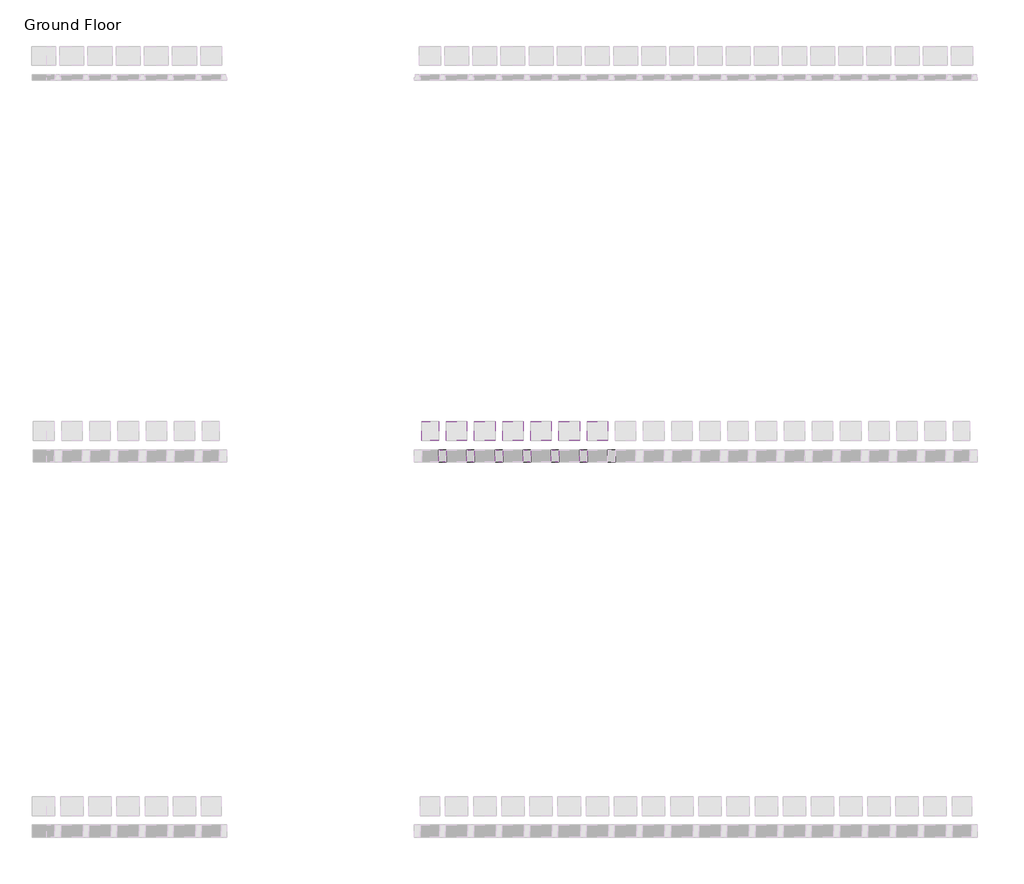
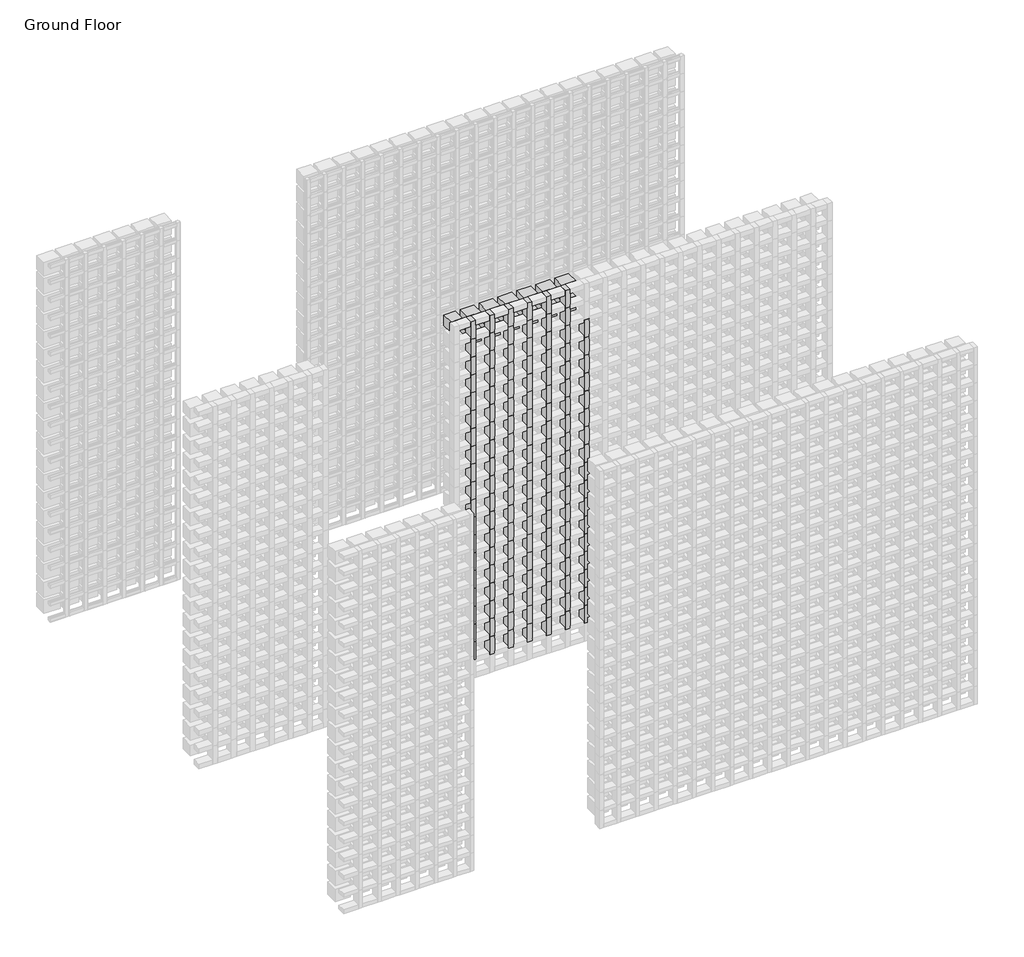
# One storey, part 145 of 350: 131 members, 13 plates.
"""IFC4 building model written with IfcOpenShell, lengths in millimetres."""

from ifc_helpers import new_model, si_unit, origin, place, context, project, spatial, transform, mapped, element, save
from components import rectangular_mullion_655930e9, empty_system_panel_empty_3b500fad, empty_system_panel_empty_e4510abc, empty_system_panel_empty_1faefc6a

model = new_model("IFC4")

# Units and contexts
model_context = context("Model", 3, world=origin())
ifc_project = project(units=[si_unit("LENGTHUNIT", "METRE", prefix="MILLI")], contexts=[model_context])

# Site, building, storey
site = spatial("IfcSite", under=ifc_project)
building = spatial("IfcBuilding", under=site)
storey = spatial("IfcBuildingStorey", under=building, Name="Ground Floor", Elevation=0.0)

# Members
placement = place(None, origin())
rectangular_mullion_shape = rectangular_mullion_655930e9(model_context)
element("IfcMember", 1, ObjectType="Rectangular Mullion : Batten_Timber_Modinex_Austratus_Grid_Fascia_40x65_Ironbark", at=placement, inside=storey, context=model_context, shape_type="MappedRepresentation", body=[
    mapped(rectangular_mullion_shape, transform((14066.4361642, 40968.2978302, 150.0), x_axis=(1.0, 0.0, 0.0), y_axis=(0.0, -1.0, 0.0), z_axis=(0.0, 0.0, -1.0))),
])
element("IfcMember", 2, ObjectType="Rectangular Mullion : Batten_Timber_Modinex_Austratus_Grid_Fascia_40x65_Ironbark", at=placement, inside=storey, context=model_context, shape_type="MappedRepresentation", body=[
    mapped(rectangular_mullion_shape, transform((14066.4361642, 40968.2978302, 300.0), x_axis=(1.0, 0.0, 0.0), y_axis=(0.0, -1.0, 0.0), z_axis=(0.0, 0.0, -1.0))),
])
element("IfcMember", 3, ObjectType="Rectangular Mullion : Batten_Timber_Modinex_Austratus_Grid_Fascia_40x65_Ironbark", at=placement, inside=storey, context=model_context, shape_type="MappedRepresentation", body=[
    mapped(rectangular_mullion_shape, transform((14066.4361642, 40968.2978302, 450.0), x_axis=(1.0, 0.0, 0.0), y_axis=(0.0, -1.0, 0.0), z_axis=(0.0, 0.0, -1.0))),
])
element("IfcMember", 4, ObjectType="Rectangular Mullion : Batten_Timber_Modinex_Austratus_Grid_Fascia_40x65_Ironbark", at=placement, inside=storey, context=model_context, shape_type="MappedRepresentation", body=[
    mapped(rectangular_mullion_shape, transform((14066.4361642, 40968.2978302, 600.0), x_axis=(1.0, 0.0, 0.0), y_axis=(0.0, -1.0, 0.0), z_axis=(0.0, 0.0, -1.0))),
])
element("IfcMember", 5, ObjectType="Rectangular Mullion : Batten_Timber_Modinex_Austratus_Grid_Fascia_40x65_Ironbark", at=placement, inside=storey, context=model_context, shape_type="MappedRepresentation", body=[
    mapped(rectangular_mullion_shape, transform((14066.4361642, 40968.2978302, 750.0), x_axis=(1.0, 0.0, 0.0), y_axis=(0.0, -1.0, 0.0), z_axis=(0.0, 0.0, -1.0))),
])
element("IfcMember", 6, ObjectType="Rectangular Mullion : Batten_Timber_Modinex_Austratus_Grid_Fascia_40x65_Ironbark", at=placement, inside=storey, context=model_context, shape_type="MappedRepresentation", body=[
    mapped(rectangular_mullion_shape, transform((14066.4361642, 40968.2978302, 900.0), x_axis=(1.0, 0.0, 0.0), y_axis=(0.0, -1.0, 0.0), z_axis=(0.0, 0.0, -1.0))),
])
element("IfcMember", 7, ObjectType="Rectangular Mullion : Batten_Timber_Modinex_Austratus_Grid_Fascia_40x65_Ironbark", at=placement, inside=storey, context=model_context, shape_type="MappedRepresentation", body=[
    mapped(rectangular_mullion_shape, transform((14066.4361642, 40968.2978302, 1050.0), x_axis=(1.0, 0.0, 0.0), y_axis=(0.0, -1.0, 0.0), z_axis=(0.0, 0.0, -1.0))),
])
element("IfcMember", 8, ObjectType="Rectangular Mullion : Batten_Timber_Modinex_Austratus_Grid_Fascia_40x65_Ironbark", at=placement, inside=storey, context=model_context, shape_type="MappedRepresentation", body=[
    mapped(rectangular_mullion_shape, transform((14066.4361642, 40968.2978302, 1200.0), x_axis=(1.0, 0.0, 0.0), y_axis=(0.0, -1.0, 0.0), z_axis=(0.0, 0.0, -1.0))),
])
element("IfcMember", 9, ObjectType="Rectangular Mullion : Batten_Timber_Modinex_Austratus_Grid_Fascia_40x65_Ironbark", at=placement, inside=storey, context=model_context, shape_type="MappedRepresentation", body=[
    mapped(rectangular_mullion_shape, transform((14066.4361642, 40968.2978302, 1350.0), x_axis=(1.0, 0.0, 0.0), y_axis=(0.0, -1.0, 0.0), z_axis=(0.0, 0.0, -1.0))),
])
element("IfcMember", 10, ObjectType="Rectangular Mullion : Batten_Timber_Modinex_Austratus_Grid_Fascia_40x65_Ironbark", at=placement, inside=storey, context=model_context, shape_type="MappedRepresentation", body=[
    mapped(rectangular_mullion_shape, transform((14066.4361642, 40968.2978302, 1500.0), x_axis=(1.0, 0.0, 0.0), y_axis=(0.0, -1.0, 0.0), z_axis=(0.0, 0.0, -1.0))),
])
element("IfcMember", 11, ObjectType="Rectangular Mullion : Batten_Timber_Modinex_Austratus_Grid_Fascia_40x65_Ironbark", at=placement, inside=storey, context=model_context, shape_type="MappedRepresentation", body=[
    mapped(rectangular_mullion_shape, transform((14066.4361642, 40968.2978302, 1650.0), x_axis=(1.0, 0.0, 0.0), y_axis=(0.0, -1.0, 0.0), z_axis=(0.0, 0.0, -1.0))),
])
element("IfcMember", 12, ObjectType="Rectangular Mullion : Batten_Timber_Modinex_Austratus_Grid_Fascia_40x65_Ironbark", at=placement, inside=storey, context=model_context, shape_type="MappedRepresentation", body=[
    mapped(rectangular_mullion_shape, transform((14066.4361642, 40968.2978302, 1800.0), x_axis=(1.0, 0.0, 0.0), y_axis=(0.0, -1.0, 0.0), z_axis=(0.0, 0.0, -1.0))),
])
element("IfcMember", 13, ObjectType="Rectangular Mullion : Batten_Timber_Modinex_Austratus_Grid_Fascia_40x65_Ironbark", at=placement, inside=storey, context=model_context, shape_type="MappedRepresentation", body=[
    mapped(rectangular_mullion_shape, transform((14066.4361642, 40968.2978302, 1950.0), x_axis=(1.0, 0.0, 0.0), y_axis=(0.0, -1.0, 0.0), z_axis=(0.0, 0.0, -1.0))),
])
element("IfcMember", 14, ObjectType="Rectangular Mullion : Batten_Timber_Modinex_Austratus_Grid_Fascia_40x65_Ironbark", at=placement, inside=storey, context=model_context, shape_type="MappedRepresentation", body=[
    mapped(rectangular_mullion_shape, transform((14066.4361642, 40968.2978302, 2100.0), x_axis=(1.0, 0.0, 0.0), y_axis=(0.0, -1.0, 0.0), z_axis=(0.0, 0.0, -1.0))),
])
element("IfcMember", 15, ObjectType="Rectangular Mullion : Batten_Timber_Modinex_Austratus_Grid_Fascia_40x65_Ironbark", at=placement, inside=storey, context=model_context, shape_type="MappedRepresentation", body=[
    mapped(rectangular_mullion_shape, transform((14066.4361642, 40968.2978302, 2250.0), x_axis=(1.0, 0.0, 0.0), y_axis=(0.0, -1.0, 0.0), z_axis=(0.0, 0.0, -1.0))),
])
element("IfcMember", 16, ObjectType="Rectangular Mullion : Batten_Timber_Modinex_Austratus_Grid_Fascia_40x65_Ironbark", at=placement, inside=storey, context=model_context, shape_type="MappedRepresentation", body=[
    mapped(rectangular_mullion_shape, transform((14066.4361642, 40968.2978302, 2400.0), x_axis=(1.0, 0.0, 0.0), y_axis=(0.0, -1.0, 0.0), z_axis=(0.0, 0.0, -1.0))),
])
element("IfcMember", 17, ObjectType="Rectangular Mullion : Batten_Timber_Modinex_Austratus_Grid_Fascia_40x65_Ironbark", at=placement, inside=storey, context=model_context, shape_type="MappedRepresentation", body=[
    mapped(rectangular_mullion_shape, transform((14066.4361642, 40968.2978302, 2550.0), x_axis=(1.0, 0.0, 0.0), y_axis=(0.0, -1.0, 0.0), z_axis=(0.0, 0.0, -1.0))),
])
element("IfcMember", 18, ObjectType="Rectangular Mullion : Batten_Timber_Modinex_Austratus_Grid_Fascia_40x65_Ironbark", at=placement, inside=storey, context=model_context, shape_type="MappedRepresentation", body=[
    mapped(rectangular_mullion_shape, transform((14066.4361642, 40968.2978302, 2700.0), x_axis=(1.0, 0.0, 0.0), y_axis=(0.0, -1.0, 0.0), z_axis=(0.0, 0.0, -1.0))),
])
element("IfcMember", 19, ObjectType="Rectangular Mullion : Batten_Timber_Modinex_Austratus_Grid_Fascia_40x65_Ironbark", at=placement, inside=storey, context=model_context, shape_type="MappedRepresentation", body=[
    mapped(rectangular_mullion_shape, transform((14216.4361642, 40968.2978302, 150.0), x_axis=(1.0, 0.0, 0.0), y_axis=(0.0, -1.0, 0.0), z_axis=(0.0, 0.0, -1.0))),
])
element("IfcMember", 20, ObjectType="Rectangular Mullion : Batten_Timber_Modinex_Austratus_Grid_Fascia_40x65_Ironbark", at=placement, inside=storey, context=model_context, shape_type="MappedRepresentation", body=[
    mapped(rectangular_mullion_shape, transform((14216.4361642, 40968.2978302, 300.0), x_axis=(1.0, 0.0, 0.0), y_axis=(0.0, -1.0, 0.0), z_axis=(0.0, 0.0, -1.0))),
])
element("IfcMember", 21, ObjectType="Rectangular Mullion : Batten_Timber_Modinex_Austratus_Grid_Fascia_40x65_Ironbark", at=placement, inside=storey, context=model_context, shape_type="MappedRepresentation", body=[
    mapped(rectangular_mullion_shape, transform((14216.4361642, 40968.2978302, 450.0), x_axis=(1.0, 0.0, 0.0), y_axis=(0.0, -1.0, 0.0), z_axis=(0.0, 0.0, -1.0))),
])
element("IfcMember", 22, ObjectType="Rectangular Mullion : Batten_Timber_Modinex_Austratus_Grid_Fascia_40x65_Ironbark", at=placement, inside=storey, context=model_context, shape_type="MappedRepresentation", body=[
    mapped(rectangular_mullion_shape, transform((14216.4361642, 40968.2978302, 600.0), x_axis=(1.0, 0.0, 0.0), y_axis=(0.0, -1.0, 0.0), z_axis=(0.0, 0.0, -1.0))),
])
element("IfcMember", 23, ObjectType="Rectangular Mullion : Batten_Timber_Modinex_Austratus_Grid_Fascia_40x65_Ironbark", at=placement, inside=storey, context=model_context, shape_type="MappedRepresentation", body=[
    mapped(rectangular_mullion_shape, transform((14216.4361642, 40968.2978302, 750.0), x_axis=(1.0, 0.0, 0.0), y_axis=(0.0, -1.0, 0.0), z_axis=(0.0, 0.0, -1.0))),
])
element("IfcMember", 24, ObjectType="Rectangular Mullion : Batten_Timber_Modinex_Austratus_Grid_Fascia_40x65_Ironbark", at=placement, inside=storey, context=model_context, shape_type="MappedRepresentation", body=[
    mapped(rectangular_mullion_shape, transform((14216.4361642, 40968.2978302, 900.0), x_axis=(1.0, 0.0, 0.0), y_axis=(0.0, -1.0, 0.0), z_axis=(0.0, 0.0, -1.0))),
])
element("IfcMember", 25, ObjectType="Rectangular Mullion : Batten_Timber_Modinex_Austratus_Grid_Fascia_40x65_Ironbark", at=placement, inside=storey, context=model_context, shape_type="MappedRepresentation", body=[
    mapped(rectangular_mullion_shape, transform((14216.4361642, 40968.2978302, 1050.0), x_axis=(1.0, 0.0, 0.0), y_axis=(0.0, -1.0, 0.0), z_axis=(0.0, 0.0, -1.0))),
])
element("IfcMember", 26, ObjectType="Rectangular Mullion : Batten_Timber_Modinex_Austratus_Grid_Fascia_40x65_Ironbark", at=placement, inside=storey, context=model_context, shape_type="MappedRepresentation", body=[
    mapped(rectangular_mullion_shape, transform((14216.4361642, 40968.2978302, 1200.0), x_axis=(1.0, 0.0, 0.0), y_axis=(0.0, -1.0, 0.0), z_axis=(0.0, 0.0, -1.0))),
])
element("IfcMember", 27, ObjectType="Rectangular Mullion : Batten_Timber_Modinex_Austratus_Grid_Fascia_40x65_Ironbark", at=placement, inside=storey, context=model_context, shape_type="MappedRepresentation", body=[
    mapped(rectangular_mullion_shape, transform((14216.4361642, 40968.2978302, 1350.0), x_axis=(1.0, 0.0, 0.0), y_axis=(0.0, -1.0, 0.0), z_axis=(0.0, 0.0, -1.0))),
])
element("IfcMember", 28, ObjectType="Rectangular Mullion : Batten_Timber_Modinex_Austratus_Grid_Fascia_40x65_Ironbark", at=placement, inside=storey, context=model_context, shape_type="MappedRepresentation", body=[
    mapped(rectangular_mullion_shape, transform((14216.4361642, 40968.2978302, 1500.0), x_axis=(1.0, 0.0, 0.0), y_axis=(0.0, -1.0, 0.0), z_axis=(0.0, 0.0, -1.0))),
])
element("IfcMember", 29, ObjectType="Rectangular Mullion : Batten_Timber_Modinex_Austratus_Grid_Fascia_40x65_Ironbark", at=placement, inside=storey, context=model_context, shape_type="MappedRepresentation", body=[
    mapped(rectangular_mullion_shape, transform((14216.4361642, 40968.2978302, 1650.0), x_axis=(1.0, 0.0, 0.0), y_axis=(0.0, -1.0, 0.0), z_axis=(0.0, 0.0, -1.0))),
])
element("IfcMember", 30, ObjectType="Rectangular Mullion : Batten_Timber_Modinex_Austratus_Grid_Fascia_40x65_Ironbark", at=placement, inside=storey, context=model_context, shape_type="MappedRepresentation", body=[
    mapped(rectangular_mullion_shape, transform((14216.4361642, 40968.2978302, 1800.0), x_axis=(1.0, 0.0, 0.0), y_axis=(0.0, -1.0, 0.0), z_axis=(0.0, 0.0, -1.0))),
])
element("IfcMember", 31, ObjectType="Rectangular Mullion : Batten_Timber_Modinex_Austratus_Grid_Fascia_40x65_Ironbark", at=placement, inside=storey, context=model_context, shape_type="MappedRepresentation", body=[
    mapped(rectangular_mullion_shape, transform((14216.4361642, 40968.2978302, 1950.0), x_axis=(1.0, 0.0, 0.0), y_axis=(0.0, -1.0, 0.0), z_axis=(0.0, 0.0, -1.0))),
])
element("IfcMember", 32, ObjectType="Rectangular Mullion : Batten_Timber_Modinex_Austratus_Grid_Fascia_40x65_Ironbark", at=placement, inside=storey, context=model_context, shape_type="MappedRepresentation", body=[
    mapped(rectangular_mullion_shape, transform((14216.4361642, 40968.2978302, 2100.0), x_axis=(1.0, 0.0, 0.0), y_axis=(0.0, -1.0, 0.0), z_axis=(0.0, 0.0, -1.0))),
])
element("IfcMember", 33, ObjectType="Rectangular Mullion : Batten_Timber_Modinex_Austratus_Grid_Fascia_40x65_Ironbark", at=placement, inside=storey, context=model_context, shape_type="MappedRepresentation", body=[
    mapped(rectangular_mullion_shape, transform((14216.4361642, 40968.2978302, 2250.0), x_axis=(1.0, 0.0, 0.0), y_axis=(0.0, -1.0, 0.0), z_axis=(0.0, 0.0, -1.0))),
])
element("IfcMember", 34, ObjectType="Rectangular Mullion : Batten_Timber_Modinex_Austratus_Grid_Fascia_40x65_Ironbark", at=placement, inside=storey, context=model_context, shape_type="MappedRepresentation", body=[
    mapped(rectangular_mullion_shape, transform((14216.4361642, 40968.2978302, 2400.0), x_axis=(1.0, 0.0, 0.0), y_axis=(0.0, -1.0, 0.0), z_axis=(0.0, 0.0, -1.0))),
])
element("IfcMember", 35, ObjectType="Rectangular Mullion : Batten_Timber_Modinex_Austratus_Grid_Fascia_40x65_Ironbark", at=placement, inside=storey, context=model_context, shape_type="MappedRepresentation", body=[
    mapped(rectangular_mullion_shape, transform((14216.4361642, 40968.2978302, 2550.0), x_axis=(1.0, 0.0, 0.0), y_axis=(0.0, -1.0, 0.0), z_axis=(0.0, 0.0, -1.0))),
])
element("IfcMember", 36, ObjectType="Rectangular Mullion : Batten_Timber_Modinex_Austratus_Grid_Fascia_40x65_Ironbark", at=placement, inside=storey, context=model_context, shape_type="MappedRepresentation", body=[
    mapped(rectangular_mullion_shape, transform((14216.4361642, 40968.2978302, 2700.0), x_axis=(1.0, 0.0, 0.0), y_axis=(0.0, -1.0, 0.0), z_axis=(0.0, 0.0, -1.0))),
])
element("IfcMember", 37, ObjectType="Rectangular Mullion : Batten_Timber_Modinex_Austratus_Grid_Fascia_40x65_Ironbark", at=placement, inside=storey, context=model_context, shape_type="MappedRepresentation", body=[
    mapped(rectangular_mullion_shape, transform((14366.4361642, 40968.2978302, 150.0), x_axis=(1.0, 0.0, 0.0), y_axis=(0.0, -1.0, 0.0), z_axis=(0.0, 0.0, -1.0))),
])
element("IfcMember", 38, ObjectType="Rectangular Mullion : Batten_Timber_Modinex_Austratus_Grid_Fascia_40x65_Ironbark", at=placement, inside=storey, context=model_context, shape_type="MappedRepresentation", body=[
    mapped(rectangular_mullion_shape, transform((14366.4361642, 40968.2978302, 300.0), x_axis=(1.0, 0.0, 0.0), y_axis=(0.0, -1.0, 0.0), z_axis=(0.0, 0.0, -1.0))),
])
element("IfcMember", 39, ObjectType="Rectangular Mullion : Batten_Timber_Modinex_Austratus_Grid_Fascia_40x65_Ironbark", at=placement, inside=storey, context=model_context, shape_type="MappedRepresentation", body=[
    mapped(rectangular_mullion_shape, transform((14366.4361642, 40968.2978302, 450.0), x_axis=(1.0, 0.0, 0.0), y_axis=(0.0, -1.0, 0.0), z_axis=(0.0, 0.0, -1.0))),
])
element("IfcMember", 40, ObjectType="Rectangular Mullion : Batten_Timber_Modinex_Austratus_Grid_Fascia_40x65_Ironbark", at=placement, inside=storey, context=model_context, shape_type="MappedRepresentation", body=[
    mapped(rectangular_mullion_shape, transform((14366.4361642, 40968.2978302, 600.0), x_axis=(1.0, 0.0, 0.0), y_axis=(0.0, -1.0, 0.0), z_axis=(0.0, 0.0, -1.0))),
])
element("IfcMember", 41, ObjectType="Rectangular Mullion : Batten_Timber_Modinex_Austratus_Grid_Fascia_40x65_Ironbark", at=placement, inside=storey, context=model_context, shape_type="MappedRepresentation", body=[
    mapped(rectangular_mullion_shape, transform((14366.4361642, 40968.2978302, 750.0), x_axis=(1.0, 0.0, 0.0), y_axis=(0.0, -1.0, 0.0), z_axis=(0.0, 0.0, -1.0))),
])
element("IfcMember", 42, ObjectType="Rectangular Mullion : Batten_Timber_Modinex_Austratus_Grid_Fascia_40x65_Ironbark", at=placement, inside=storey, context=model_context, shape_type="MappedRepresentation", body=[
    mapped(rectangular_mullion_shape, transform((14366.4361642, 40968.2978302, 900.0), x_axis=(1.0, 0.0, 0.0), y_axis=(0.0, -1.0, 0.0), z_axis=(0.0, 0.0, -1.0))),
])
element("IfcMember", 43, ObjectType="Rectangular Mullion : Batten_Timber_Modinex_Austratus_Grid_Fascia_40x65_Ironbark", at=placement, inside=storey, context=model_context, shape_type="MappedRepresentation", body=[
    mapped(rectangular_mullion_shape, transform((14366.4361642, 40968.2978302, 1050.0), x_axis=(1.0, 0.0, 0.0), y_axis=(0.0, -1.0, 0.0), z_axis=(0.0, 0.0, -1.0))),
])
element("IfcMember", 44, ObjectType="Rectangular Mullion : Batten_Timber_Modinex_Austratus_Grid_Fascia_40x65_Ironbark", at=placement, inside=storey, context=model_context, shape_type="MappedRepresentation", body=[
    mapped(rectangular_mullion_shape, transform((14366.4361642, 40968.2978302, 1200.0), x_axis=(1.0, 0.0, 0.0), y_axis=(0.0, -1.0, 0.0), z_axis=(0.0, 0.0, -1.0))),
])
element("IfcMember", 45, ObjectType="Rectangular Mullion : Batten_Timber_Modinex_Austratus_Grid_Fascia_40x65_Ironbark", at=placement, inside=storey, context=model_context, shape_type="MappedRepresentation", body=[
    mapped(rectangular_mullion_shape, transform((14366.4361642, 40968.2978302, 1350.0), x_axis=(1.0, 0.0, 0.0), y_axis=(0.0, -1.0, 0.0), z_axis=(0.0, 0.0, -1.0))),
])
element("IfcMember", 46, ObjectType="Rectangular Mullion : Batten_Timber_Modinex_Austratus_Grid_Fascia_40x65_Ironbark", at=placement, inside=storey, context=model_context, shape_type="MappedRepresentation", body=[
    mapped(rectangular_mullion_shape, transform((14366.4361642, 40968.2978302, 1500.0), x_axis=(1.0, 0.0, 0.0), y_axis=(0.0, -1.0, 0.0), z_axis=(0.0, 0.0, -1.0))),
])
element("IfcMember", 47, ObjectType="Rectangular Mullion : Batten_Timber_Modinex_Austratus_Grid_Fascia_40x65_Ironbark", at=placement, inside=storey, context=model_context, shape_type="MappedRepresentation", body=[
    mapped(rectangular_mullion_shape, transform((14366.4361642, 40968.2978302, 1650.0), x_axis=(1.0, 0.0, 0.0), y_axis=(0.0, -1.0, 0.0), z_axis=(0.0, 0.0, -1.0))),
])
element("IfcMember", 48, ObjectType="Rectangular Mullion : Batten_Timber_Modinex_Austratus_Grid_Fascia_40x65_Ironbark", at=placement, inside=storey, context=model_context, shape_type="MappedRepresentation", body=[
    mapped(rectangular_mullion_shape, transform((14366.4361642, 40968.2978302, 1800.0), x_axis=(1.0, 0.0, 0.0), y_axis=(0.0, -1.0, 0.0), z_axis=(0.0, 0.0, -1.0))),
])
element("IfcMember", 49, ObjectType="Rectangular Mullion : Batten_Timber_Modinex_Austratus_Grid_Fascia_40x65_Ironbark", at=placement, inside=storey, context=model_context, shape_type="MappedRepresentation", body=[
    mapped(rectangular_mullion_shape, transform((14366.4361642, 40968.2978302, 1950.0), x_axis=(1.0, 0.0, 0.0), y_axis=(0.0, -1.0, 0.0), z_axis=(0.0, 0.0, -1.0))),
])
element("IfcMember", 50, ObjectType="Rectangular Mullion : Batten_Timber_Modinex_Austratus_Grid_Fascia_40x65_Ironbark", at=placement, inside=storey, context=model_context, shape_type="MappedRepresentation", body=[
    mapped(rectangular_mullion_shape, transform((14366.4361642, 40968.2978302, 2100.0), x_axis=(1.0, 0.0, 0.0), y_axis=(0.0, -1.0, 0.0), z_axis=(0.0, 0.0, -1.0))),
])
element("IfcMember", 51, ObjectType="Rectangular Mullion : Batten_Timber_Modinex_Austratus_Grid_Fascia_40x65_Ironbark", at=placement, inside=storey, context=model_context, shape_type="MappedRepresentation", body=[
    mapped(rectangular_mullion_shape, transform((14366.4361642, 40968.2978302, 2250.0), x_axis=(1.0, 0.0, 0.0), y_axis=(0.0, -1.0, 0.0), z_axis=(0.0, 0.0, -1.0))),
])
element("IfcMember", 52, ObjectType="Rectangular Mullion : Batten_Timber_Modinex_Austratus_Grid_Fascia_40x65_Ironbark", at=placement, inside=storey, context=model_context, shape_type="MappedRepresentation", body=[
    mapped(rectangular_mullion_shape, transform((14366.4361642, 40968.2978302, 2400.0), x_axis=(1.0, 0.0, 0.0), y_axis=(0.0, -1.0, 0.0), z_axis=(0.0, 0.0, -1.0))),
])
element("IfcMember", 53, ObjectType="Rectangular Mullion : Batten_Timber_Modinex_Austratus_Grid_Fascia_40x65_Ironbark", at=placement, inside=storey, context=model_context, shape_type="MappedRepresentation", body=[
    mapped(rectangular_mullion_shape, transform((14366.4361642, 40968.2978302, 2550.0), x_axis=(1.0, 0.0, 0.0), y_axis=(0.0, -1.0, 0.0), z_axis=(0.0, 0.0, -1.0))),
])
element("IfcMember", 54, ObjectType="Rectangular Mullion : Batten_Timber_Modinex_Austratus_Grid_Fascia_40x65_Ironbark", at=placement, inside=storey, context=model_context, shape_type="MappedRepresentation", body=[
    mapped(rectangular_mullion_shape, transform((14366.4361642, 40968.2978302, 2700.0), x_axis=(1.0, 0.0, 0.0), y_axis=(0.0, -1.0, 0.0), z_axis=(0.0, 0.0, -1.0))),
])
element("IfcMember", 55, ObjectType="Rectangular Mullion : Batten_Timber_Modinex_Austratus_Grid_Fascia_40x65_Ironbark", at=placement, inside=storey, context=model_context, shape_type="MappedRepresentation", body=[
    mapped(rectangular_mullion_shape, transform((14516.4361642, 40968.2978302, 150.0), x_axis=(1.0, 0.0, 0.0), y_axis=(0.0, -1.0, 0.0), z_axis=(0.0, 0.0, -1.0))),
])
element("IfcMember", 56, ObjectType="Rectangular Mullion : Batten_Timber_Modinex_Austratus_Grid_Fascia_40x65_Ironbark", at=placement, inside=storey, context=model_context, shape_type="MappedRepresentation", body=[
    mapped(rectangular_mullion_shape, transform((14516.4361642, 40968.2978302, 300.0), x_axis=(1.0, 0.0, 0.0), y_axis=(0.0, -1.0, 0.0), z_axis=(0.0, 0.0, -1.0))),
])
element("IfcMember", 57, ObjectType="Rectangular Mullion : Batten_Timber_Modinex_Austratus_Grid_Fascia_40x65_Ironbark", at=placement, inside=storey, context=model_context, shape_type="MappedRepresentation", body=[
    mapped(rectangular_mullion_shape, transform((14516.4361642, 40968.2978302, 450.0), x_axis=(1.0, 0.0, 0.0), y_axis=(0.0, -1.0, 0.0), z_axis=(0.0, 0.0, -1.0))),
])
element("IfcMember", 58, ObjectType="Rectangular Mullion : Batten_Timber_Modinex_Austratus_Grid_Fascia_40x65_Ironbark", at=placement, inside=storey, context=model_context, shape_type="MappedRepresentation", body=[
    mapped(rectangular_mullion_shape, transform((14516.4361642, 40968.2978302, 600.0), x_axis=(1.0, 0.0, 0.0), y_axis=(0.0, -1.0, 0.0), z_axis=(0.0, 0.0, -1.0))),
])
element("IfcMember", 59, ObjectType="Rectangular Mullion : Batten_Timber_Modinex_Austratus_Grid_Fascia_40x65_Ironbark", at=placement, inside=storey, context=model_context, shape_type="MappedRepresentation", body=[
    mapped(rectangular_mullion_shape, transform((14516.4361642, 40968.2978302, 750.0), x_axis=(1.0, 0.0, 0.0), y_axis=(0.0, -1.0, 0.0), z_axis=(0.0, 0.0, -1.0))),
])
element("IfcMember", 60, ObjectType="Rectangular Mullion : Batten_Timber_Modinex_Austratus_Grid_Fascia_40x65_Ironbark", at=placement, inside=storey, context=model_context, shape_type="MappedRepresentation", body=[
    mapped(rectangular_mullion_shape, transform((14516.4361642, 40968.2978302, 900.0), x_axis=(1.0, 0.0, 0.0), y_axis=(0.0, -1.0, 0.0), z_axis=(0.0, 0.0, -1.0))),
])
element("IfcMember", 61, ObjectType="Rectangular Mullion : Batten_Timber_Modinex_Austratus_Grid_Fascia_40x65_Ironbark", at=placement, inside=storey, context=model_context, shape_type="MappedRepresentation", body=[
    mapped(rectangular_mullion_shape, transform((14516.4361642, 40968.2978302, 1050.0), x_axis=(1.0, 0.0, 0.0), y_axis=(0.0, -1.0, 0.0), z_axis=(0.0, 0.0, -1.0))),
])
element("IfcMember", 62, ObjectType="Rectangular Mullion : Batten_Timber_Modinex_Austratus_Grid_Fascia_40x65_Ironbark", at=placement, inside=storey, context=model_context, shape_type="MappedRepresentation", body=[
    mapped(rectangular_mullion_shape, transform((14516.4361642, 40968.2978302, 1200.0), x_axis=(1.0, 0.0, 0.0), y_axis=(0.0, -1.0, 0.0), z_axis=(0.0, 0.0, -1.0))),
])
element("IfcMember", 63, ObjectType="Rectangular Mullion : Batten_Timber_Modinex_Austratus_Grid_Fascia_40x65_Ironbark", at=placement, inside=storey, context=model_context, shape_type="MappedRepresentation", body=[
    mapped(rectangular_mullion_shape, transform((14516.4361642, 40968.2978302, 1350.0), x_axis=(1.0, 0.0, 0.0), y_axis=(0.0, -1.0, 0.0), z_axis=(0.0, 0.0, -1.0))),
])
element("IfcMember", 64, ObjectType="Rectangular Mullion : Batten_Timber_Modinex_Austratus_Grid_Fascia_40x65_Ironbark", at=placement, inside=storey, context=model_context, shape_type="MappedRepresentation", body=[
    mapped(rectangular_mullion_shape, transform((14516.4361642, 40968.2978302, 1500.0), x_axis=(1.0, 0.0, 0.0), y_axis=(0.0, -1.0, 0.0), z_axis=(0.0, 0.0, -1.0))),
])
element("IfcMember", 65, ObjectType="Rectangular Mullion : Batten_Timber_Modinex_Austratus_Grid_Fascia_40x65_Ironbark", at=placement, inside=storey, context=model_context, shape_type="MappedRepresentation", body=[
    mapped(rectangular_mullion_shape, transform((14516.4361642, 40968.2978302, 1650.0), x_axis=(1.0, 0.0, 0.0), y_axis=(0.0, -1.0, 0.0), z_axis=(0.0, 0.0, -1.0))),
])
element("IfcMember", 66, ObjectType="Rectangular Mullion : Batten_Timber_Modinex_Austratus_Grid_Fascia_40x65_Ironbark", at=placement, inside=storey, context=model_context, shape_type="MappedRepresentation", body=[
    mapped(rectangular_mullion_shape, transform((14516.4361642, 40968.2978302, 1800.0), x_axis=(1.0, 0.0, 0.0), y_axis=(0.0, -1.0, 0.0), z_axis=(0.0, 0.0, -1.0))),
])
element("IfcMember", 67, ObjectType="Rectangular Mullion : Batten_Timber_Modinex_Austratus_Grid_Fascia_40x65_Ironbark", at=placement, inside=storey, context=model_context, shape_type="MappedRepresentation", body=[
    mapped(rectangular_mullion_shape, transform((14516.4361642, 40968.2978302, 1950.0), x_axis=(1.0, 0.0, 0.0), y_axis=(0.0, -1.0, 0.0), z_axis=(0.0, 0.0, -1.0))),
])
element("IfcMember", 68, ObjectType="Rectangular Mullion : Batten_Timber_Modinex_Austratus_Grid_Fascia_40x65_Ironbark", at=placement, inside=storey, context=model_context, shape_type="MappedRepresentation", body=[
    mapped(rectangular_mullion_shape, transform((14516.4361642, 40968.2978302, 2100.0), x_axis=(1.0, 0.0, 0.0), y_axis=(0.0, -1.0, 0.0), z_axis=(0.0, 0.0, -1.0))),
])
element("IfcMember", 69, ObjectType="Rectangular Mullion : Batten_Timber_Modinex_Austratus_Grid_Fascia_40x65_Ironbark", at=placement, inside=storey, context=model_context, shape_type="MappedRepresentation", body=[
    mapped(rectangular_mullion_shape, transform((14516.4361642, 40968.2978302, 2250.0), x_axis=(1.0, 0.0, 0.0), y_axis=(0.0, -1.0, 0.0), z_axis=(0.0, 0.0, -1.0))),
])
element("IfcMember", 70, ObjectType="Rectangular Mullion : Batten_Timber_Modinex_Austratus_Grid_Fascia_40x65_Ironbark", at=placement, inside=storey, context=model_context, shape_type="MappedRepresentation", body=[
    mapped(rectangular_mullion_shape, transform((14516.4361642, 40968.2978302, 2400.0), x_axis=(1.0, 0.0, 0.0), y_axis=(0.0, -1.0, 0.0), z_axis=(0.0, 0.0, -1.0))),
])
element("IfcMember", 71, ObjectType="Rectangular Mullion : Batten_Timber_Modinex_Austratus_Grid_Fascia_40x65_Ironbark", at=placement, inside=storey, context=model_context, shape_type="MappedRepresentation", body=[
    mapped(rectangular_mullion_shape, transform((14516.4361642, 40968.2978302, 2550.0), x_axis=(1.0, 0.0, 0.0), y_axis=(0.0, -1.0, 0.0), z_axis=(0.0, 0.0, -1.0))),
])
element("IfcMember", 72, ObjectType="Rectangular Mullion : Batten_Timber_Modinex_Austratus_Grid_Fascia_40x65_Ironbark", at=placement, inside=storey, context=model_context, shape_type="MappedRepresentation", body=[
    mapped(rectangular_mullion_shape, transform((14516.4361642, 40968.2978302, 2700.0), x_axis=(1.0, 0.0, 0.0), y_axis=(0.0, -1.0, 0.0), z_axis=(0.0, 0.0, -1.0))),
])
element("IfcMember", 73, ObjectType="Rectangular Mullion : Batten_Timber_Modinex_Austratus_Grid_Fascia_40x65_Ironbark", at=placement, inside=storey, context=model_context, shape_type="MappedRepresentation", body=[
    mapped(rectangular_mullion_shape, transform((14666.4361642, 40968.2978302, 150.0), x_axis=(1.0, 0.0, 0.0), y_axis=(0.0, -1.0, 0.0), z_axis=(0.0, 0.0, -1.0))),
])
element("IfcMember", 74, ObjectType="Rectangular Mullion : Batten_Timber_Modinex_Austratus_Grid_Fascia_40x65_Ironbark", at=placement, inside=storey, context=model_context, shape_type="MappedRepresentation", body=[
    mapped(rectangular_mullion_shape, transform((14666.4361642, 40968.2978302, 300.0), x_axis=(1.0, 0.0, 0.0), y_axis=(0.0, -1.0, 0.0), z_axis=(0.0, 0.0, -1.0))),
])
element("IfcMember", 75, ObjectType="Rectangular Mullion : Batten_Timber_Modinex_Austratus_Grid_Fascia_40x65_Ironbark", at=placement, inside=storey, context=model_context, shape_type="MappedRepresentation", body=[
    mapped(rectangular_mullion_shape, transform((14666.4361642, 40968.2978302, 450.0), x_axis=(1.0, 0.0, 0.0), y_axis=(0.0, -1.0, 0.0), z_axis=(0.0, 0.0, -1.0))),
])
element("IfcMember", 76, ObjectType="Rectangular Mullion : Batten_Timber_Modinex_Austratus_Grid_Fascia_40x65_Ironbark", at=placement, inside=storey, context=model_context, shape_type="MappedRepresentation", body=[
    mapped(rectangular_mullion_shape, transform((14666.4361642, 40968.2978302, 600.0), x_axis=(1.0, 0.0, 0.0), y_axis=(0.0, -1.0, 0.0), z_axis=(0.0, 0.0, -1.0))),
])
element("IfcMember", 77, ObjectType="Rectangular Mullion : Batten_Timber_Modinex_Austratus_Grid_Fascia_40x65_Ironbark", at=placement, inside=storey, context=model_context, shape_type="MappedRepresentation", body=[
    mapped(rectangular_mullion_shape, transform((14666.4361642, 40968.2978302, 750.0), x_axis=(1.0, 0.0, 0.0), y_axis=(0.0, -1.0, 0.0), z_axis=(0.0, 0.0, -1.0))),
])
element("IfcMember", 78, ObjectType="Rectangular Mullion : Batten_Timber_Modinex_Austratus_Grid_Fascia_40x65_Ironbark", at=placement, inside=storey, context=model_context, shape_type="MappedRepresentation", body=[
    mapped(rectangular_mullion_shape, transform((14666.4361642, 40968.2978302, 900.0), x_axis=(1.0, 0.0, 0.0), y_axis=(0.0, -1.0, 0.0), z_axis=(0.0, 0.0, -1.0))),
])
element("IfcMember", 79, ObjectType="Rectangular Mullion : Batten_Timber_Modinex_Austratus_Grid_Fascia_40x65_Ironbark", at=placement, inside=storey, context=model_context, shape_type="MappedRepresentation", body=[
    mapped(rectangular_mullion_shape, transform((14666.4361642, 40968.2978302, 1050.0), x_axis=(1.0, 0.0, 0.0), y_axis=(0.0, -1.0, 0.0), z_axis=(0.0, 0.0, -1.0))),
])
element("IfcMember", 80, ObjectType="Rectangular Mullion : Batten_Timber_Modinex_Austratus_Grid_Fascia_40x65_Ironbark", at=placement, inside=storey, context=model_context, shape_type="MappedRepresentation", body=[
    mapped(rectangular_mullion_shape, transform((14666.4361642, 40968.2978302, 1200.0), x_axis=(1.0, 0.0, 0.0), y_axis=(0.0, -1.0, 0.0), z_axis=(0.0, 0.0, -1.0))),
])
element("IfcMember", 81, ObjectType="Rectangular Mullion : Batten_Timber_Modinex_Austratus_Grid_Fascia_40x65_Ironbark", at=placement, inside=storey, context=model_context, shape_type="MappedRepresentation", body=[
    mapped(rectangular_mullion_shape, transform((14666.4361642, 40968.2978302, 1350.0), x_axis=(1.0, 0.0, 0.0), y_axis=(0.0, -1.0, 0.0), z_axis=(0.0, 0.0, -1.0))),
])
element("IfcMember", 82, ObjectType="Rectangular Mullion : Batten_Timber_Modinex_Austratus_Grid_Fascia_40x65_Ironbark", at=placement, inside=storey, context=model_context, shape_type="MappedRepresentation", body=[
    mapped(rectangular_mullion_shape, transform((14666.4361642, 40968.2978302, 1500.0), x_axis=(1.0, 0.0, 0.0), y_axis=(0.0, -1.0, 0.0), z_axis=(0.0, 0.0, -1.0))),
])
element("IfcMember", 83, ObjectType="Rectangular Mullion : Batten_Timber_Modinex_Austratus_Grid_Fascia_40x65_Ironbark", at=placement, inside=storey, context=model_context, shape_type="MappedRepresentation", body=[
    mapped(rectangular_mullion_shape, transform((14666.4361642, 40968.2978302, 1650.0), x_axis=(1.0, 0.0, 0.0), y_axis=(0.0, -1.0, 0.0), z_axis=(0.0, 0.0, -1.0))),
])
element("IfcMember", 84, ObjectType="Rectangular Mullion : Batten_Timber_Modinex_Austratus_Grid_Fascia_40x65_Ironbark", at=placement, inside=storey, context=model_context, shape_type="MappedRepresentation", body=[
    mapped(rectangular_mullion_shape, transform((14666.4361642, 40968.2978302, 1800.0), x_axis=(1.0, 0.0, 0.0), y_axis=(0.0, -1.0, 0.0), z_axis=(0.0, 0.0, -1.0))),
])
element("IfcMember", 85, ObjectType="Rectangular Mullion : Batten_Timber_Modinex_Austratus_Grid_Fascia_40x65_Ironbark", at=placement, inside=storey, context=model_context, shape_type="MappedRepresentation", body=[
    mapped(rectangular_mullion_shape, transform((14666.4361642, 40968.2978302, 1950.0), x_axis=(1.0, 0.0, 0.0), y_axis=(0.0, -1.0, 0.0), z_axis=(0.0, 0.0, -1.0))),
])
element("IfcMember", 86, ObjectType="Rectangular Mullion : Batten_Timber_Modinex_Austratus_Grid_Fascia_40x65_Ironbark", at=placement, inside=storey, context=model_context, shape_type="MappedRepresentation", body=[
    mapped(rectangular_mullion_shape, transform((14666.4361642, 40968.2978302, 2100.0), x_axis=(1.0, 0.0, 0.0), y_axis=(0.0, -1.0, 0.0), z_axis=(0.0, 0.0, -1.0))),
])
element("IfcMember", 87, ObjectType="Rectangular Mullion : Batten_Timber_Modinex_Austratus_Grid_Fascia_40x65_Ironbark", at=placement, inside=storey, context=model_context, shape_type="MappedRepresentation", body=[
    mapped(rectangular_mullion_shape, transform((14666.4361642, 40968.2978302, 2250.0), x_axis=(1.0, 0.0, 0.0), y_axis=(0.0, -1.0, 0.0), z_axis=(0.0, 0.0, -1.0))),
])
element("IfcMember", 88, ObjectType="Rectangular Mullion : Batten_Timber_Modinex_Austratus_Grid_Fascia_40x65_Ironbark", at=placement, inside=storey, context=model_context, shape_type="MappedRepresentation", body=[
    mapped(rectangular_mullion_shape, transform((14666.4361642, 40968.2978302, 2400.0), x_axis=(1.0, 0.0, 0.0), y_axis=(0.0, -1.0, 0.0), z_axis=(0.0, 0.0, -1.0))),
])
element("IfcMember", 89, ObjectType="Rectangular Mullion : Batten_Timber_Modinex_Austratus_Grid_Fascia_40x65_Ironbark", at=placement, inside=storey, context=model_context, shape_type="MappedRepresentation", body=[
    mapped(rectangular_mullion_shape, transform((14666.4361642, 40968.2978302, 2550.0), x_axis=(1.0, 0.0, 0.0), y_axis=(0.0, -1.0, 0.0), z_axis=(0.0, 0.0, -1.0))),
])
element("IfcMember", 90, ObjectType="Rectangular Mullion : Batten_Timber_Modinex_Austratus_Grid_Fascia_40x65_Ironbark", at=placement, inside=storey, context=model_context, shape_type="MappedRepresentation", body=[
    mapped(rectangular_mullion_shape, transform((14666.4361642, 40968.2978302, 2700.0), x_axis=(1.0, 0.0, 0.0), y_axis=(0.0, -1.0, 0.0), z_axis=(0.0, 0.0, -1.0))),
])
element("IfcMember", 91, ObjectType="Rectangular Mullion : Batten_Timber_Modinex_Austratus_Grid_Fascia_40x65_Ironbark", at=placement, inside=storey, context=model_context, shape_type="MappedRepresentation", body=[
    mapped(rectangular_mullion_shape, transform((14816.4361642, 40968.2978302, 150.0), x_axis=(1.0, 0.0, 0.0), y_axis=(0.0, -1.0, 0.0), z_axis=(0.0, 0.0, -1.0))),
])
element("IfcMember", 92, ObjectType="Rectangular Mullion : Batten_Timber_Modinex_Austratus_Grid_Fascia_40x65_Ironbark", at=placement, inside=storey, context=model_context, shape_type="MappedRepresentation", body=[
    mapped(rectangular_mullion_shape, transform((14816.4361642, 40968.2978302, 300.0), x_axis=(1.0, 0.0, 0.0), y_axis=(0.0, -1.0, 0.0), z_axis=(0.0, 0.0, -1.0))),
])
element("IfcMember", 93, ObjectType="Rectangular Mullion : Batten_Timber_Modinex_Austratus_Grid_Fascia_40x65_Ironbark", at=placement, inside=storey, context=model_context, shape_type="MappedRepresentation", body=[
    mapped(rectangular_mullion_shape, transform((14816.4361642, 40968.2978302, 450.0), x_axis=(1.0, 0.0, 0.0), y_axis=(0.0, -1.0, 0.0), z_axis=(0.0, 0.0, -1.0))),
])
element("IfcMember", 94, ObjectType="Rectangular Mullion : Batten_Timber_Modinex_Austratus_Grid_Fascia_40x65_Ironbark", at=placement, inside=storey, context=model_context, shape_type="MappedRepresentation", body=[
    mapped(rectangular_mullion_shape, transform((14816.4361642, 40968.2978302, 600.0), x_axis=(1.0, 0.0, 0.0), y_axis=(0.0, -1.0, 0.0), z_axis=(0.0, 0.0, -1.0))),
])
element("IfcMember", 95, ObjectType="Rectangular Mullion : Batten_Timber_Modinex_Austratus_Grid_Fascia_40x65_Ironbark", at=placement, inside=storey, context=model_context, shape_type="MappedRepresentation", body=[
    mapped(rectangular_mullion_shape, transform((14816.4361642, 40968.2978302, 750.0), x_axis=(1.0, 0.0, 0.0), y_axis=(0.0, -1.0, 0.0), z_axis=(0.0, 0.0, -1.0))),
])
element("IfcMember", 96, ObjectType="Rectangular Mullion : Batten_Timber_Modinex_Austratus_Grid_Fascia_40x65_Ironbark", at=placement, inside=storey, context=model_context, shape_type="MappedRepresentation", body=[
    mapped(rectangular_mullion_shape, transform((14816.4361642, 40968.2978302, 900.0), x_axis=(1.0, 0.0, 0.0), y_axis=(0.0, -1.0, 0.0), z_axis=(0.0, 0.0, -1.0))),
])
element("IfcMember", 97, ObjectType="Rectangular Mullion : Batten_Timber_Modinex_Austratus_Grid_Fascia_40x65_Ironbark", at=placement, inside=storey, context=model_context, shape_type="MappedRepresentation", body=[
    mapped(rectangular_mullion_shape, transform((14816.4361642, 40968.2978302, 1050.0), x_axis=(1.0, 0.0, 0.0), y_axis=(0.0, -1.0, 0.0), z_axis=(0.0, 0.0, -1.0))),
])
element("IfcMember", 98, ObjectType="Rectangular Mullion : Batten_Timber_Modinex_Austratus_Grid_Fascia_40x65_Ironbark", at=placement, inside=storey, context=model_context, shape_type="MappedRepresentation", body=[
    mapped(rectangular_mullion_shape, transform((14816.4361642, 40968.2978302, 1200.0), x_axis=(1.0, 0.0, 0.0), y_axis=(0.0, -1.0, 0.0), z_axis=(0.0, 0.0, -1.0))),
])
element("IfcMember", 99, ObjectType="Rectangular Mullion : Batten_Timber_Modinex_Austratus_Grid_Fascia_40x65_Ironbark", at=placement, inside=storey, context=model_context, shape_type="MappedRepresentation", body=[
    mapped(rectangular_mullion_shape, transform((14816.4361642, 40968.2978302, 1350.0), x_axis=(1.0, 0.0, 0.0), y_axis=(0.0, -1.0, 0.0), z_axis=(0.0, 0.0, -1.0))),
])
element("IfcMember", 100, ObjectType="Rectangular Mullion : Batten_Timber_Modinex_Austratus_Grid_Fascia_40x65_Ironbark", at=placement, inside=storey, context=model_context, shape_type="MappedRepresentation", body=[
    mapped(rectangular_mullion_shape, transform((14816.4361642, 40968.2978302, 1500.0), x_axis=(1.0, 0.0, 0.0), y_axis=(0.0, -1.0, 0.0), z_axis=(0.0, 0.0, -1.0))),
])
element("IfcMember", 101, ObjectType="Rectangular Mullion : Batten_Timber_Modinex_Austratus_Grid_Fascia_40x65_Ironbark", at=placement, inside=storey, context=model_context, shape_type="MappedRepresentation", body=[
    mapped(rectangular_mullion_shape, transform((14816.4361642, 40968.2978302, 1650.0), x_axis=(1.0, 0.0, 0.0), y_axis=(0.0, -1.0, 0.0), z_axis=(0.0, 0.0, -1.0))),
])
element("IfcMember", 102, ObjectType="Rectangular Mullion : Batten_Timber_Modinex_Austratus_Grid_Fascia_40x65_Ironbark", at=placement, inside=storey, context=model_context, shape_type="MappedRepresentation", body=[
    mapped(rectangular_mullion_shape, transform((14816.4361642, 40968.2978302, 1800.0), x_axis=(1.0, 0.0, 0.0), y_axis=(0.0, -1.0, 0.0), z_axis=(0.0, 0.0, -1.0))),
])
element("IfcMember", 103, ObjectType="Rectangular Mullion : Batten_Timber_Modinex_Austratus_Grid_Fascia_40x65_Ironbark", at=placement, inside=storey, context=model_context, shape_type="MappedRepresentation", body=[
    mapped(rectangular_mullion_shape, transform((14816.4361642, 40968.2978302, 1950.0), x_axis=(1.0, 0.0, 0.0), y_axis=(0.0, -1.0, 0.0), z_axis=(0.0, 0.0, -1.0))),
])
element("IfcMember", 104, ObjectType="Rectangular Mullion : Batten_Timber_Modinex_Austratus_Grid_Fascia_40x65_Ironbark", at=placement, inside=storey, context=model_context, shape_type="MappedRepresentation", body=[
    mapped(rectangular_mullion_shape, transform((14816.4361642, 40968.2978302, 2100.0), x_axis=(1.0, 0.0, 0.0), y_axis=(0.0, -1.0, 0.0), z_axis=(0.0, 0.0, -1.0))),
])
element("IfcMember", 105, ObjectType="Rectangular Mullion : Batten_Timber_Modinex_Austratus_Grid_Fascia_40x65_Ironbark", at=placement, inside=storey, context=model_context, shape_type="MappedRepresentation", body=[
    mapped(rectangular_mullion_shape, transform((14816.4361642, 40968.2978302, 2250.0), x_axis=(1.0, 0.0, 0.0), y_axis=(0.0, -1.0, 0.0), z_axis=(0.0, 0.0, -1.0))),
])
element("IfcMember", 106, ObjectType="Rectangular Mullion : Batten_Timber_Modinex_Austratus_Grid_Fascia_40x65_Ironbark", at=placement, inside=storey, context=model_context, shape_type="MappedRepresentation", body=[
    mapped(rectangular_mullion_shape, transform((14816.4361642, 40968.2978302, 2400.0), x_axis=(1.0, 0.0, 0.0), y_axis=(0.0, -1.0, 0.0), z_axis=(0.0, 0.0, -1.0))),
])
element("IfcMember", 107, ObjectType="Rectangular Mullion : Batten_Timber_Modinex_Austratus_Grid_Fascia_40x65_Ironbark", at=placement, inside=storey, context=model_context, shape_type="MappedRepresentation", body=[
    mapped(rectangular_mullion_shape, transform((14816.4361642, 40968.2978302, 2550.0), x_axis=(1.0, 0.0, 0.0), y_axis=(0.0, -1.0, 0.0), z_axis=(0.0, 0.0, -1.0))),
])
element("IfcMember", 108, ObjectType="Rectangular Mullion : Batten_Timber_Modinex_Austratus_Grid_Fascia_40x65_Ironbark", at=placement, inside=storey, context=model_context, shape_type="MappedRepresentation", body=[
    mapped(rectangular_mullion_shape, transform((14816.4361642, 40968.2978302, 2700.0), x_axis=(1.0, 0.0, 0.0), y_axis=(0.0, -1.0, 0.0), z_axis=(0.0, 0.0, -1.0))),
])
element("IfcMember", 109, ObjectType="Rectangular Mullion : Batten_Timber_Modinex_Austratus_Grid_Fascia_40x65_Ironbark", at=placement, inside=storey, context=model_context, shape_type="MappedRepresentation", body=[
    mapped(rectangular_mullion_shape, transform((14966.4361642, 40968.2978302, 150.0), x_axis=(1.0, 0.0, 0.0), y_axis=(0.0, -1.0, 0.0), z_axis=(0.0, 0.0, -1.0))),
])
element("IfcMember", 110, ObjectType="Rectangular Mullion : Batten_Timber_Modinex_Austratus_Grid_Fascia_40x65_Ironbark", at=placement, inside=storey, context=model_context, shape_type="MappedRepresentation", body=[
    mapped(rectangular_mullion_shape, transform((14966.4361642, 40968.2978302, 300.0), x_axis=(1.0, 0.0, 0.0), y_axis=(0.0, -1.0, 0.0), z_axis=(0.0, 0.0, -1.0))),
])
element("IfcMember", 111, ObjectType="Rectangular Mullion : Batten_Timber_Modinex_Austratus_Grid_Fascia_40x65_Ironbark", at=placement, inside=storey, context=model_context, shape_type="MappedRepresentation", body=[
    mapped(rectangular_mullion_shape, transform((14966.4361642, 40968.2978302, 450.0), x_axis=(1.0, 0.0, 0.0), y_axis=(0.0, -1.0, 0.0), z_axis=(0.0, 0.0, -1.0))),
])
element("IfcMember", 112, ObjectType="Rectangular Mullion : Batten_Timber_Modinex_Austratus_Grid_Fascia_40x65_Ironbark", at=placement, inside=storey, context=model_context, shape_type="MappedRepresentation", body=[
    mapped(rectangular_mullion_shape, transform((14966.4361642, 40968.2978302, 600.0), x_axis=(1.0, 0.0, 0.0), y_axis=(0.0, -1.0, 0.0), z_axis=(0.0, 0.0, -1.0))),
])
element("IfcMember", 113, ObjectType="Rectangular Mullion : Batten_Timber_Modinex_Austratus_Grid_Fascia_40x65_Ironbark", at=placement, inside=storey, context=model_context, shape_type="MappedRepresentation", body=[
    mapped(rectangular_mullion_shape, transform((14966.4361642, 40968.2978302, 750.0), x_axis=(1.0, 0.0, 0.0), y_axis=(0.0, -1.0, 0.0), z_axis=(0.0, 0.0, -1.0))),
])
element("IfcMember", 114, ObjectType="Rectangular Mullion : Batten_Timber_Modinex_Austratus_Grid_Fascia_40x65_Ironbark", at=placement, inside=storey, context=model_context, shape_type="MappedRepresentation", body=[
    mapped(rectangular_mullion_shape, transform((14966.4361642, 40968.2978302, 900.0), x_axis=(1.0, 0.0, 0.0), y_axis=(0.0, -1.0, 0.0), z_axis=(0.0, 0.0, -1.0))),
])
element("IfcMember", 115, ObjectType="Rectangular Mullion : Batten_Timber_Modinex_Austratus_Grid_Fascia_40x65_Ironbark", at=placement, inside=storey, context=model_context, shape_type="MappedRepresentation", body=[
    mapped(rectangular_mullion_shape, transform((14966.4361642, 40968.2978302, 1050.0), x_axis=(1.0, 0.0, 0.0), y_axis=(0.0, -1.0, 0.0), z_axis=(0.0, 0.0, -1.0))),
])
element("IfcMember", 116, ObjectType="Rectangular Mullion : Batten_Timber_Modinex_Austratus_Grid_Fascia_40x65_Ironbark", at=placement, inside=storey, context=model_context, shape_type="MappedRepresentation", body=[
    mapped(rectangular_mullion_shape, transform((14966.4361642, 40968.2978302, 1200.0), x_axis=(1.0, 0.0, 0.0), y_axis=(0.0, -1.0, 0.0), z_axis=(0.0, 0.0, -1.0))),
])
element("IfcMember", 117, ObjectType="Rectangular Mullion : Batten_Timber_Modinex_Austratus_Grid_Fascia_40x65_Ironbark", at=placement, inside=storey, context=model_context, shape_type="MappedRepresentation", body=[
    mapped(rectangular_mullion_shape, transform((14966.4361642, 40968.2978302, 1350.0), x_axis=(1.0, 0.0, 0.0), y_axis=(0.0, -1.0, 0.0), z_axis=(0.0, 0.0, -1.0))),
])
element("IfcMember", 118, ObjectType="Rectangular Mullion : Batten_Timber_Modinex_Austratus_Grid_Fascia_40x65_Ironbark", at=placement, inside=storey, context=model_context, shape_type="MappedRepresentation", body=[
    mapped(rectangular_mullion_shape, transform((14966.4361642, 40968.2978302, 1500.0), x_axis=(1.0, 0.0, 0.0), y_axis=(0.0, -1.0, 0.0), z_axis=(0.0, 0.0, -1.0))),
])
element("IfcMember", 119, ObjectType="Rectangular Mullion : Batten_Timber_Modinex_Austratus_Grid_Fascia_40x65_Ironbark", at=placement, inside=storey, context=model_context, shape_type="MappedRepresentation", body=[
    mapped(rectangular_mullion_shape, transform((14966.4361642, 40968.2978302, 1650.0), x_axis=(1.0, 0.0, 0.0), y_axis=(0.0, -1.0, 0.0), z_axis=(0.0, 0.0, -1.0))),
])
element("IfcMember", 120, ObjectType="Rectangular Mullion : Batten_Timber_Modinex_Austratus_Grid_Fascia_40x65_Ironbark", at=placement, inside=storey, context=model_context, shape_type="MappedRepresentation", body=[
    mapped(rectangular_mullion_shape, transform((14966.4361642, 40968.2978302, 1800.0), x_axis=(1.0, 0.0, 0.0), y_axis=(0.0, -1.0, 0.0), z_axis=(0.0, 0.0, -1.0))),
])
element("IfcMember", 121, ObjectType="Rectangular Mullion : Batten_Timber_Modinex_Austratus_Grid_Fascia_40x65_Ironbark", at=placement, inside=storey, context=model_context, shape_type="MappedRepresentation", body=[
    mapped(rectangular_mullion_shape, transform((14966.4361642, 40968.2978302, 1950.0), x_axis=(1.0, 0.0, 0.0), y_axis=(0.0, -1.0, 0.0), z_axis=(0.0, 0.0, -1.0))),
])
element("IfcMember", 122, ObjectType="Rectangular Mullion : Batten_Timber_Modinex_Austratus_Grid_Fascia_40x65_Ironbark", at=placement, inside=storey, context=model_context, shape_type="MappedRepresentation", body=[
    mapped(rectangular_mullion_shape, transform((14966.4361642, 40968.2978302, 2100.0), x_axis=(1.0, 0.0, 0.0), y_axis=(0.0, -1.0, 0.0), z_axis=(0.0, 0.0, -1.0))),
])
element("IfcMember", 123, ObjectType="Rectangular Mullion : Batten_Timber_Modinex_Austratus_Grid_Fascia_40x65_Ironbark", at=placement, inside=storey, context=model_context, shape_type="MappedRepresentation", body=[
    mapped(rectangular_mullion_shape, transform((14966.4361642, 40968.2978302, 2250.0), x_axis=(1.0, 0.0, 0.0), y_axis=(0.0, -1.0, 0.0), z_axis=(0.0, 0.0, -1.0))),
])
element("IfcMember", 124, ObjectType="Rectangular Mullion : Batten_Timber_Modinex_Austratus_Grid_Fascia_40x65_Ironbark", at=placement, inside=storey, context=model_context, shape_type="MappedRepresentation", body=[
    mapped(rectangular_mullion_shape, transform((14966.4361642, 40968.2978302, 2400.0), x_axis=(1.0, 0.0, 0.0), y_axis=(0.0, -1.0, 0.0), z_axis=(0.0, 0.0, -1.0))),
])
element("IfcMember", 125, ObjectType="Rectangular Mullion : Batten_Timber_Modinex_Austratus_Grid_Fascia_40x65_Ironbark", at=placement, inside=storey, context=model_context, shape_type="MappedRepresentation", body=[
    mapped(rectangular_mullion_shape, transform((14966.4361642, 40968.2978302, 2550.0), x_axis=(1.0, 0.0, 0.0), y_axis=(0.0, -1.0, 0.0), z_axis=(0.0, 0.0, -1.0))),
])
element("IfcMember", 126, ObjectType="Rectangular Mullion : Batten_Timber_Modinex_Austratus_Grid_Fascia_40x65_Ironbark", at=placement, inside=storey, context=model_context, shape_type="MappedRepresentation", body=[
    mapped(rectangular_mullion_shape, transform((14066.4361642, 40968.2978302, 2850.0), x_axis=(1.0, 0.0, 0.0), y_axis=(0.0, -1.0, 0.0), z_axis=(0.0, 0.0, -1.0))),
])
element("IfcMember", 127, ObjectType="Rectangular Mullion : Batten_Timber_Modinex_Austratus_Grid_Fascia_40x65_Ironbark", at=placement, inside=storey, context=model_context, shape_type="MappedRepresentation", body=[
    mapped(rectangular_mullion_shape, transform((14216.4361642, 40968.2978302, 2850.0), x_axis=(1.0, 0.0, 0.0), y_axis=(0.0, -1.0, 0.0), z_axis=(0.0, 0.0, -1.0))),
])
element("IfcMember", 128, ObjectType="Rectangular Mullion : Batten_Timber_Modinex_Austratus_Grid_Fascia_40x65_Ironbark", at=placement, inside=storey, context=model_context, shape_type="MappedRepresentation", body=[
    mapped(rectangular_mullion_shape, transform((14366.4361642, 40968.2978302, 2850.0), x_axis=(1.0, 0.0, 0.0), y_axis=(0.0, -1.0, 0.0), z_axis=(0.0, 0.0, -1.0))),
])
element("IfcMember", 129, ObjectType="Rectangular Mullion : Batten_Timber_Modinex_Austratus_Grid_Fascia_40x65_Ironbark", at=placement, inside=storey, context=model_context, shape_type="MappedRepresentation", body=[
    mapped(rectangular_mullion_shape, transform((14516.4361642, 40968.2978302, 2850.0), x_axis=(1.0, 0.0, 0.0), y_axis=(0.0, -1.0, 0.0), z_axis=(0.0, 0.0, -1.0))),
])
element("IfcMember", 130, ObjectType="Rectangular Mullion : Batten_Timber_Modinex_Austratus_Grid_Fascia_40x65_Ironbark", at=placement, inside=storey, context=model_context, shape_type="MappedRepresentation", body=[
    mapped(rectangular_mullion_shape, transform((14666.4361642, 40968.2978302, 2850.0), x_axis=(1.0, 0.0, 0.0), y_axis=(0.0, -1.0, 0.0), z_axis=(0.0, 0.0, -1.0))),
])
element("IfcMember", 131, ObjectType="Rectangular Mullion : Batten_Timber_Modinex_Austratus_Grid_Fascia_40x65_Ironbark", at=placement, inside=storey, context=model_context, shape_type="MappedRepresentation", body=[
    mapped(rectangular_mullion_shape, transform((14816.4361642, 40968.2978302, 2850.0), x_axis=(1.0, 0.0, 0.0), y_axis=(0.0, -1.0, 0.0), z_axis=(0.0, 0.0, -1.0))),
])

# Plates
empty_system_panel_empty_shape = empty_system_panel_empty_3b500fad(model_context)
element("IfcPlate", 132, ObjectType="Empty System Panel : Empty", at=placement, inside=storey, context=model_context, shape_type="MappedRepresentation", body=[
    mapped(empty_system_panel_empty_shape, transform((14141.4361642, 40968.2978302, 2720.0), x_axis=(1.0, 0.0, 0.0), y_axis=(0.0, 1.0, 0.0), z_axis=(0.0, 0.0, 1.0))),
])
element("IfcPlate", 133, ObjectType="Empty System Panel : Empty", at=placement, inside=storey, context=model_context, shape_type="MappedRepresentation", body=[
    mapped(empty_system_panel_empty_shape, transform((14291.4361642, 40968.2978302, 2720.0), x_axis=(1.0, 0.0, 0.0), y_axis=(0.0, 1.0, 0.0), z_axis=(0.0, 0.0, 1.0))),
])
element("IfcPlate", 134, ObjectType="Empty System Panel : Empty", at=placement, inside=storey, context=model_context, shape_type="MappedRepresentation", body=[
    mapped(empty_system_panel_empty_shape, transform((14441.4361642, 40968.2978302, 2720.0), x_axis=(1.0, 0.0, 0.0), y_axis=(0.0, 1.0, 0.0), z_axis=(0.0, 0.0, 1.0))),
])
element("IfcPlate", 135, ObjectType="Empty System Panel : Empty", at=placement, inside=storey, context=model_context, shape_type="MappedRepresentation", body=[
    mapped(empty_system_panel_empty_shape, transform((14591.4361642, 40968.2978302, 2720.0), x_axis=(1.0, 0.0, 0.0), y_axis=(0.0, 1.0, 0.0), z_axis=(0.0, 0.0, 1.0))),
])
element("IfcPlate", 136, ObjectType="Empty System Panel : Empty", at=placement, inside=storey, context=model_context, shape_type="MappedRepresentation", body=[
    mapped(empty_system_panel_empty_shape, transform((14741.4361642, 40968.2978302, 2720.0), x_axis=(1.0, 0.0, 0.0), y_axis=(0.0, 1.0, 0.0), z_axis=(0.0, 0.0, 1.0))),
])
element("IfcPlate", 137, ObjectType="Empty System Panel : Empty", at=placement, inside=storey, context=model_context, shape_type="MappedRepresentation", body=[
    mapped(empty_system_panel_empty_shape, transform((14891.4361642, 40968.2978302, 2720.0), x_axis=(1.0, 0.0, 0.0), y_axis=(0.0, 1.0, 0.0), z_axis=(0.0, 0.0, 1.0))),
])
empty_system_panel_empty_2_shape = empty_system_panel_empty_e4510abc(model_context)
element("IfcPlate", 138, ObjectType="Empty System Panel : Empty", at=placement, inside=storey, context=model_context, shape_type="MappedRepresentation", body=[
    mapped(empty_system_panel_empty_2_shape, transform((14001.4361641, 40968.2978302, 2870.0), x_axis=(1.0, 0.0, 0.0), y_axis=(0.0, 1.0, 0.0), z_axis=(0.0, 0.0, 1.0))),
])
empty_system_panel_empty_3_shape = empty_system_panel_empty_1faefc6a(model_context)
element("IfcPlate", 139, ObjectType="Empty System Panel : Empty", at=placement, inside=storey, context=model_context, shape_type="MappedRepresentation", body=[
    mapped(empty_system_panel_empty_3_shape, transform((14141.4361642, 40968.2978302, 2870.0), x_axis=(1.0, 0.0, 0.0), y_axis=(0.0, 1.0, 0.0), z_axis=(0.0, 0.0, 1.0))),
])
element("IfcPlate", 140, ObjectType="Empty System Panel : Empty", at=placement, inside=storey, context=model_context, shape_type="MappedRepresentation", body=[
    mapped(empty_system_panel_empty_3_shape, transform((14291.4361642, 40968.2978302, 2870.0), x_axis=(1.0, 0.0, 0.0), y_axis=(0.0, 1.0, 0.0), z_axis=(0.0, 0.0, 1.0))),
])
element("IfcPlate", 141, ObjectType="Empty System Panel : Empty", at=placement, inside=storey, context=model_context, shape_type="MappedRepresentation", body=[
    mapped(empty_system_panel_empty_3_shape, transform((14441.4361642, 40968.2978302, 2870.0), x_axis=(1.0, 0.0, 0.0), y_axis=(0.0, 1.0, 0.0), z_axis=(0.0, 0.0, 1.0))),
])
element("IfcPlate", 142, ObjectType="Empty System Panel : Empty", at=placement, inside=storey, context=model_context, shape_type="MappedRepresentation", body=[
    mapped(empty_system_panel_empty_3_shape, transform((14591.4361642, 40968.2978302, 2870.0), x_axis=(1.0, 0.0, 0.0), y_axis=(0.0, 1.0, 0.0), z_axis=(0.0, 0.0, 1.0))),
])
element("IfcPlate", 143, ObjectType="Empty System Panel : Empty", at=placement, inside=storey, context=model_context, shape_type="MappedRepresentation", body=[
    mapped(empty_system_panel_empty_3_shape, transform((14741.4361642, 40968.2978302, 2870.0), x_axis=(1.0, 0.0, 0.0), y_axis=(0.0, 1.0, 0.0), z_axis=(0.0, 0.0, 1.0))),
])
element("IfcPlate", 144, ObjectType="Empty System Panel : Empty", at=placement, inside=storey, context=model_context, shape_type="MappedRepresentation", body=[
    mapped(empty_system_panel_empty_3_shape, transform((14891.4361642, 40968.2978302, 2870.0), x_axis=(1.0, 0.0, 0.0), y_axis=(0.0, 1.0, 0.0), z_axis=(0.0, 0.0, 1.0))),
])

save(model, "model.ifc")
